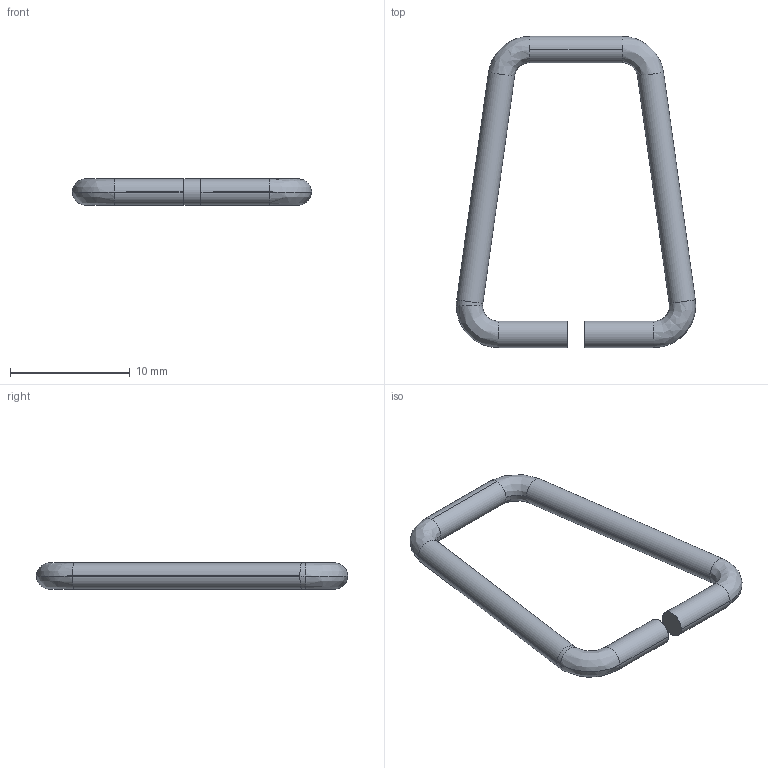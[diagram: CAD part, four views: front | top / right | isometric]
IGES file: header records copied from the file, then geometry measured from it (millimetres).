
Start section: SolidWorks IGES FILE using analytic representation for surfaces
Global section: file name: C:\WINNT\Profiles\cbrechard\Bureau\GO 533\533.200.00.IGS; native system: SolidWorks 2001Plus by SolidWorks Corporation; preprocessor: Version 5.3; author: CBRECHARD; date: 050125.145442; units: millimetre
Bounding box: 20 x 26 x 2.2 mm (x, y, z)
Surface area: 509.7 mm2 (no closed solid volume)
Topology: 0 solids, 0 shells, 22 faces, 152 edges, 152 vertices
Faces by surface type: bspline 12, revolution 10
